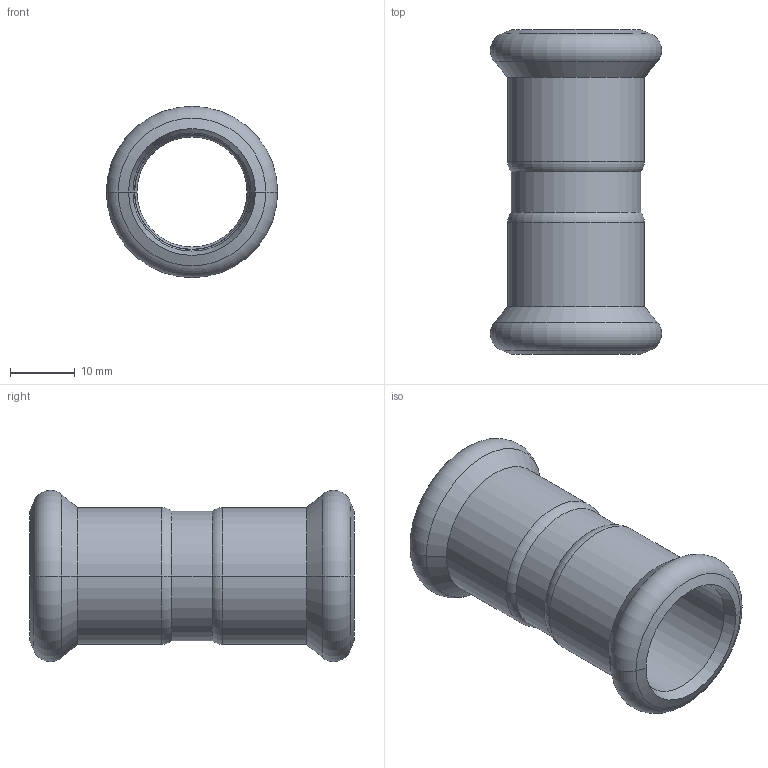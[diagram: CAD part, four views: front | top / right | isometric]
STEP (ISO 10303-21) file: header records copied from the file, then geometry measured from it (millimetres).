
FILE_DESCRIPTION(('Creo Elements/Direct Modeling STEP Export'),'2;1');
FILE_NAME('657137.1.stp','2018-06-29T14:37:09',(''),(''),'PTC Creo Elements/Direct Modeling STEP processor for AP214 (Solid Model)','PTC Creo Elements/Direct Modeling 19.0C 15-Aug-2015 (C) Parametric Technology GmbH','');
FILE_SCHEMA(('AUTOMOTIVE_DESIGN { 1 0 10303 214 1 1 1 1 }'));
Length unit declared in the file: millimetre
Products named in the file (3): 686002.3.1; Tussenstuk18x18kort; 675137.1.1
Assembly tree (3 placements, depth 2):
  675137.1.1
    686002.3.1  x2
    Tussenstuk18x18kort
Bounding box: 26.45 x 50.14 x 26.45 mm (x, y, z)
Volume: 6239.6 mm3; surface area: 7119.2 mm2
Topology: 3 solids, 3 shells, 48 faces, 96 edges, 52 vertices
Faces by surface type: cone 16, torus 16, cylinder 12, plane 4
Entity records: 904 total; most frequent: DIRECTION 162, ORIENTED_EDGE 140, CARTESIAN_POINT 128, AXIS2_PLACEMENT_3D 72, EDGE_CURVE 70, VERTEX_POINT 38, EDGE_LOOP 38, FACE_OUTER_BOUND 35
